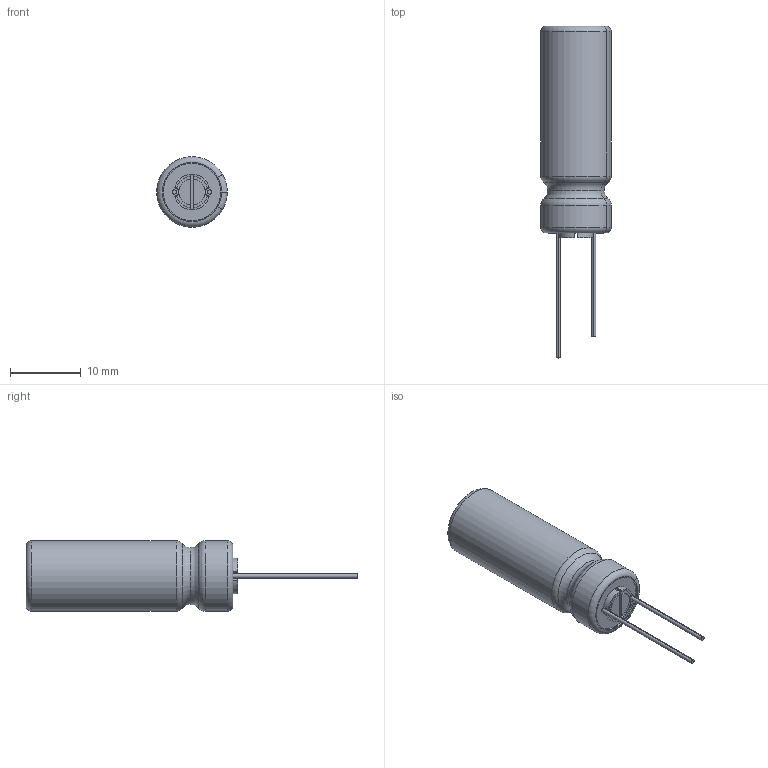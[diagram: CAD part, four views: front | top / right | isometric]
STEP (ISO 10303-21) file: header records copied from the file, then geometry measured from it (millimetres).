
FILE_DESCRIPTION (( 'STEP AP214' ), '1' );
FILE_NAME ('EEUFC0J272L.STEP', '2021-04-05T04:58:35', ( '' ), ( '' ), 'SwSTEP 2.0', 'SolidWorks 2017', '' );
FILE_SCHEMA (( 'AUTOMOTIVE_DESIGN' ));
Length unit declared in the file: millimetre
Products named in the file (1): EEUFC0J272L
Bounding box: 10 x 47 x 10 mm (x, y, z)
Volume: 2237 mm3; surface area: 1846.8 mm2
Topology: 5 solids, 5 shells, 91 faces, 231 edges, 151 vertices
Faces by surface type: plane 42, cylinder 31, torus 18
Entity records: 2866 total; most frequent: DIRECTION 538, CARTESIAN_POINT 474, ORIENTED_EDGE 462, EDGE_CURVE 231, AXIS2_PLACEMENT_3D 215, VERTEX_POINT 151, CIRCLE 123, LINE 108
